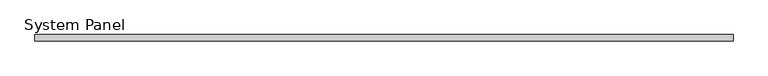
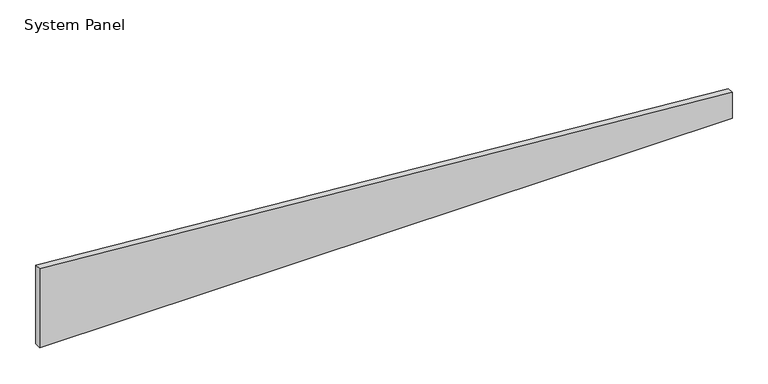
"""IFC4 building model written with IfcOpenShell, lengths in millimetres: plate geometry, System Panel : VACÍO."""

from ifc_helpers import new_model, si_unit, frame, origin, place, context, project, spatial, polyline, outline, extrude, source, transform, mapped, element, save


def system_panel_96016f27(model_context):
    return source(origin(), model_context, "Body", "SweptSolid", [
        extrude(outline(polyline([(0.0, -555.7609662), (0.0, 555.7609662), (43.8536236, 555.7609662), (133.5302743, -555.7609662), (0.0, -555.7609662)])), frame((0.0, -5.0, 0.0), z_axis=(0.0, 1.0, 0.0), x_axis=(0.0, 0.0, 1.0)), (0.0, 0.0, 1.0), 10.0),
    ])


if __name__ == "__main__":
    model = new_model("IFC4")
    model_context = context("Model", 3, world=origin())
    ifc_project = project(units=[si_unit("LENGTHUNIT", "METRE", prefix="MILLI")], contexts=[model_context])
    site = spatial("IfcSite", under=ifc_project)
    building = spatial("IfcBuilding", under=site)
    placement = place(None, origin())
    system_panel_shape = system_panel_96016f27(model_context)
    element("IfcPlate", 1, ObjectType="System Panel : VACÍO", at=placement, inside=building, context=model_context, shape_type="MappedRepresentation", body=[
        mapped(system_panel_shape, transform((0.0, 0.0, 0.0), x_axis=(1.0, 0.0, 0.0), y_axis=(0.0, 1.0, 0.0), z_axis=(0.0, 0.0, 1.0))),
    ])
    save(model, "model.ifc")
